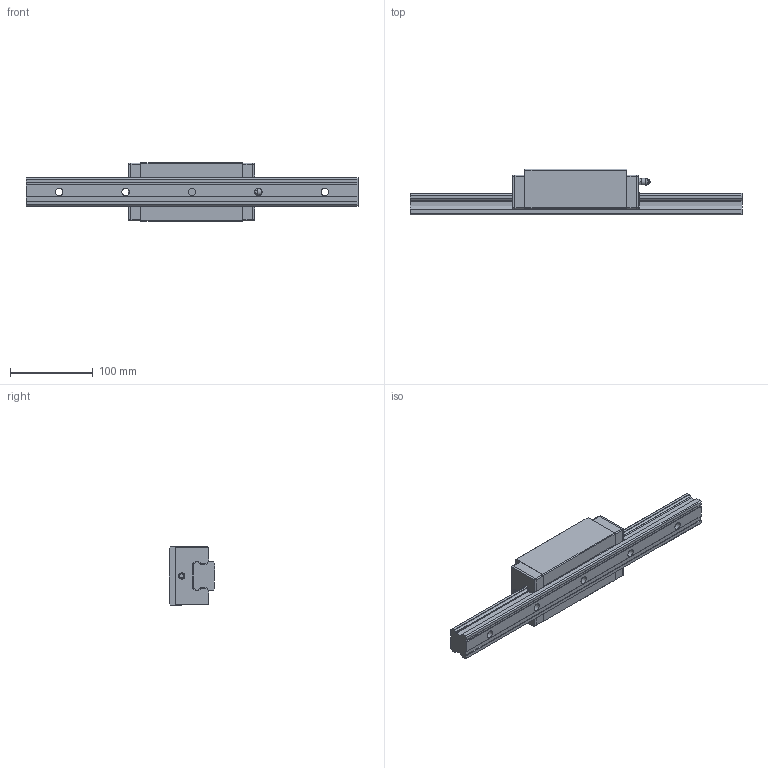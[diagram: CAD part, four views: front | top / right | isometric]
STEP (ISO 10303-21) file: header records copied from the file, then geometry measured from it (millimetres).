
FILE_DESCRIPTION((''),'2;1');
FILE_NAME('C:\Documents and Settings\土屋\My Documents\土屋移動用フォルダ\製品 (図面)\カタログ用3D\リニアガイド\EGH-L\EGH35L.stp','2015-12-15T17:46:23',('y'),(''),'Autodesk Inventor 11','Autodesk Inventor 11','');
FILE_SCHEMA(('AUTOMOTIVE_DESIGN { 1 0 10303 214 1 1 1 1 }'));
Length unit declared in the file: millimetre
Products named in the file (3): EGH35L; EGH35Lレール; EGH35Lキャリッジ
Assembly tree (2 placements, depth 2):
  EGH35L
    EGH35Lレール
    EGH35Lキャリッジ
Bounding box: 400 x 55 x 70 mm (x, y, z)
Volume: 690103.1 mm3; surface area: 123949.6 mm2
Topology: 7 solids, 7 shells, 318 faces, 863 edges, 571 vertices
Faces by surface type: plane 181, cylinder 121, cone 12, bspline 2, torus 1, sphere 1
Full cylindrical faces by diameter (mm): 6 x1, 6.8 x4, 7.5 x5, 7.75 x1, 8 x5, 9 x5, 14 x5
Entity records: 10014 total; most frequent: CARTESIAN_POINT 1868, DIRECTION 1708, ORIENTED_EDGE 1628, EDGE_CURVE 814, AXIS2_PLACEMENT_3D 582, VERTEX_POINT 561, VECTOR 544, LINE 544
